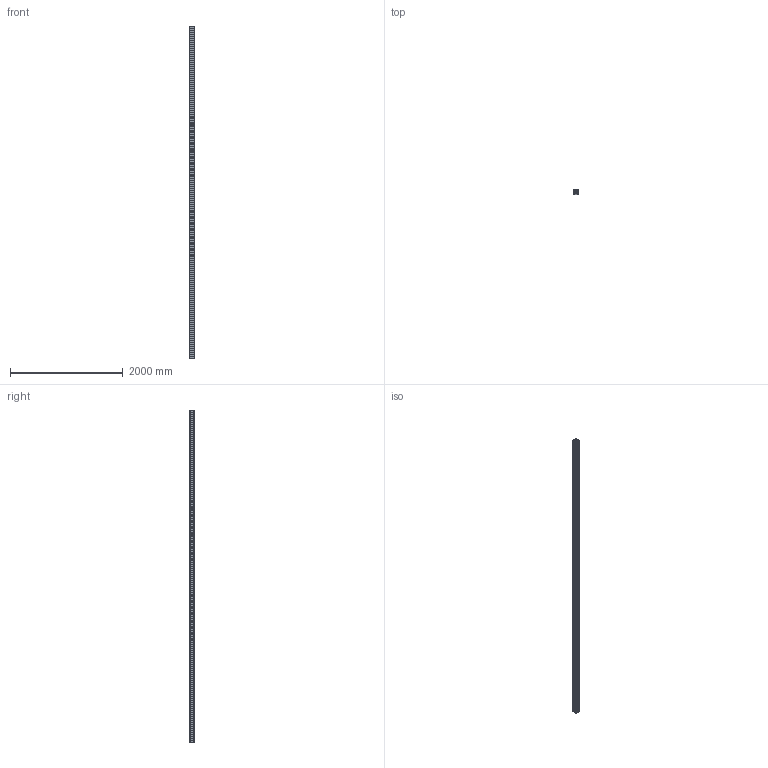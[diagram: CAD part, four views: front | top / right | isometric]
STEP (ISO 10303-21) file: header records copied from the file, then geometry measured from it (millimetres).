
FILE_DESCRIPTION (( 'STEP AP203' ), '1' );
FILE_NAME ('_-_MLF 4 5898 mm lang.step', '2005-09-01T12:47:39', ( ' ' ), ( ' ' ), 'SwSTEP 2.0', 'SolidWorks 2005187', '' );
FILE_SCHEMA (( 'CONFIG_CONTROL_DESIGN' ));
Length unit declared in the file: millimetre
Products named in the file (1): _-_MLF 4  5898 mm lang
Bounding box: 87.56 x 80 x 5898 mm (x, y, z)
Volume: 13590461.2 mm3; surface area: 7280947.6 mm2
Topology: 1 solids, 1 shells, 248 faces, 762 edges, 500 vertices
Faces by surface type: plane 174, cylinder 74
Entity records: 8575 total; most frequent: ORIENTED_EDGE 1524, CARTESIAN_POINT 1511, DIRECTION 1408, EDGE_CURVE 762, VECTOR 614, LINE 614, VERTEX_POINT 500, AXIS2_PLACEMENT_3D 397
